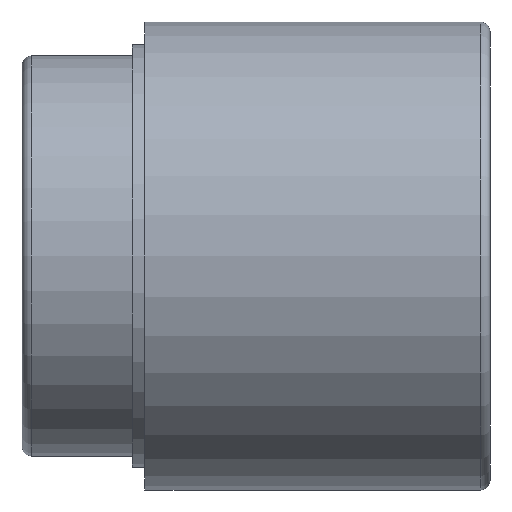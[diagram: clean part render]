
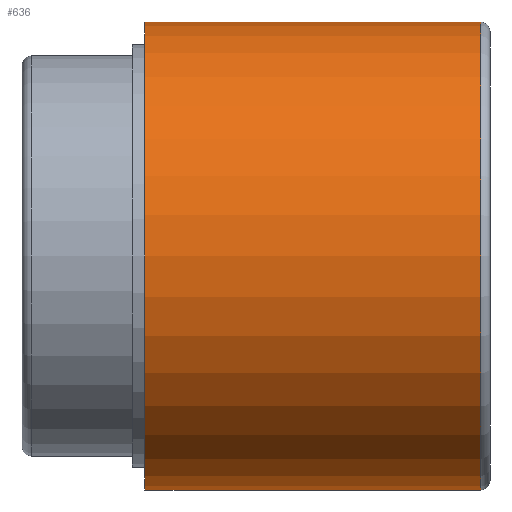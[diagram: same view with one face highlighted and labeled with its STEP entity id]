
A CAD part, left-side view. The second image highlights one B-rep face of the part: STEP entity #636.
In plain terms, the highlighted cylindrical face has radius 18.999 mm (diameter 37.998 mm), a partial arc.
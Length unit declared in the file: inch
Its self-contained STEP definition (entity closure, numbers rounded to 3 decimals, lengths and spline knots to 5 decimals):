
#2 = VERTEX_POINT ( 'NONE', #78 ) ;
#40 = CIRCLE ( 'NONE', #327, 0.748 ) ;
#43 = EDGE_CURVE ( 'NONE', #528, #936, #957, .T. ) ;
#57 = DIRECTION ( 'NONE',  ( 0., -1., 0. ) ) ;
#78 = CARTESIAN_POINT ( 'NONE',  ( 0., 0.03, -0.748 ) ) ;
#92 = DIRECTION ( 'NONE',  ( 0., 0., 1. ) ) ;
#131 = ORIENTED_EDGE ( 'NONE', *, *, #239, .F. ) ;
#141 = CARTESIAN_POINT ( 'NONE',  ( 0., 0.03, 0.748 ) ) ;
#166 = ORIENTED_EDGE ( 'NONE', *, *, #581, .T. ) ;
#193 = DIRECTION ( 'NONE',  ( 0., -1., 0. ) ) ;
#224 = DIRECTION ( 'NONE',  ( 0., 1., 0. ) ) ;
#234 = VECTOR ( 'NONE', #673, 39.37008 ) ;
#239 = EDGE_CURVE ( 'NONE', #862, #528, #40, .T. ) ;
#252 = CARTESIAN_POINT ( 'NONE',  ( 0., 1.103, -0.748 ) ) ;
#264 = EDGE_CURVE ( 'NONE', #862, #2, #459, .T. ) ;
#327 = AXIS2_PLACEMENT_3D ( 'NONE', #1023, #508, #92 ) ;
#385 = EDGE_LOOP ( 'NONE', ( #953, #131, #1035, #166 ) ) ;
#429 = CARTESIAN_POINT ( 'NONE',  ( 0., 1.103, -0.748 ) ) ;
#430 = CIRCLE ( 'NONE', #640, 0.748 ) ;
#459 = LINE ( 'NONE', #252, #234 ) ;
#475 = CARTESIAN_POINT ( 'NONE',  ( 0., 1.103, 0. ) ) ;
#508 = DIRECTION ( 'NONE',  ( 0., 1., 0. ) ) ;
#528 = VERTEX_POINT ( 'NONE', #625 ) ;
#581 = EDGE_CURVE ( 'NONE', #2, #936, #430, .T. ) ;
#625 = CARTESIAN_POINT ( 'NONE',  ( 0., 1.103, 0.748 ) ) ;
#636 = ADVANCED_FACE ( 'NONE', ( #1057 ), #1029, .T. ) ;
#640 = AXIS2_PLACEMENT_3D ( 'NONE', #900, #224, #819 ) ;
#673 = DIRECTION ( 'NONE',  ( 0., -1., 0. ) ) ;
#700 = VECTOR ( 'NONE', #193, 39.37008 ) ;
#776 = CARTESIAN_POINT ( 'NONE',  ( 0., 1.103, 0.748 ) ) ;
#819 = DIRECTION ( 'NONE',  ( 0., 0., 1. ) ) ;
#862 = VERTEX_POINT ( 'NONE', #429 ) ;
#900 = CARTESIAN_POINT ( 'NONE',  ( 0., 0.03, 0. ) ) ;
#936 = VERTEX_POINT ( 'NONE', #141 ) ;
#953 = ORIENTED_EDGE ( 'NONE', *, *, #43, .F. ) ;
#957 = LINE ( 'NONE', #776, #700 ) ;
#987 = AXIS2_PLACEMENT_3D ( 'NONE', #475, #57, #989 ) ;
#989 = DIRECTION ( 'NONE',  ( 0., 0., -1. ) ) ;
#1023 = CARTESIAN_POINT ( 'NONE',  ( 0., 1.103, 0. ) ) ;
#1029 = CYLINDRICAL_SURFACE ( 'NONE', #987, 0.748 ) ;
#1035 = ORIENTED_EDGE ( 'NONE', *, *, #264, .T. ) ;
#1057 = FACE_OUTER_BOUND ( 'NONE', #385, .T. ) ;
